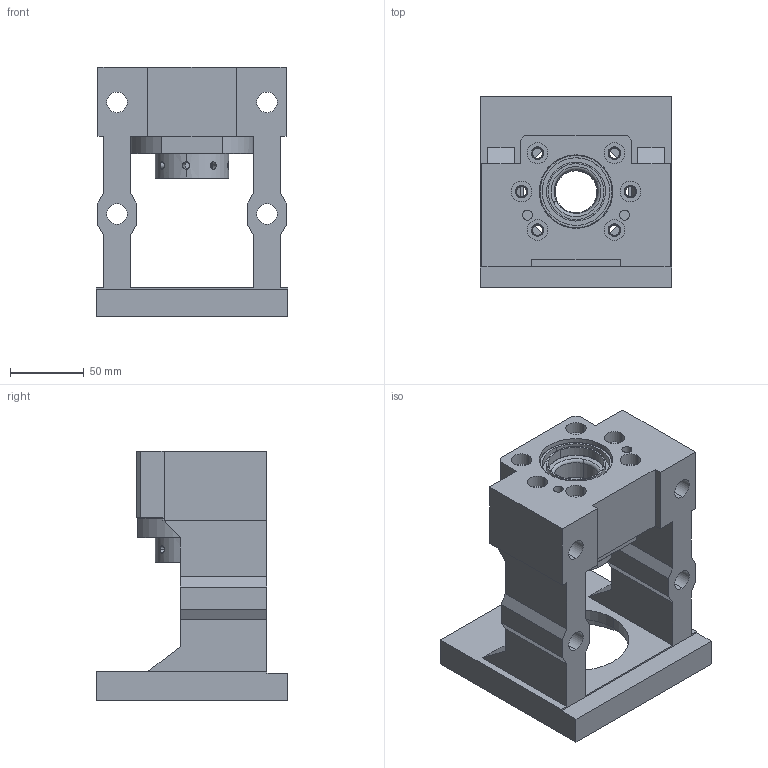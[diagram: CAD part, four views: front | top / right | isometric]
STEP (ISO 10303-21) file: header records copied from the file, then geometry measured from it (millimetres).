
FILE_DESCRIPTION (( 'STEP AP203' ), '1' );
FILE_NAME ('MBCS30-YP.STEP', '2021-10-28T08:33:29', ( '' ), ( '' ), 'SwSTEP 2.0', 'SolidWorks 2018', '' );
FILE_SCHEMA (( 'CONFIG_CONTROL_DESIGN' ));
Length unit declared in the file: millimetre
Products named in the file (1): MBCS30-YP
Bounding box: 130 x 130 x 170 mm (x, y, z)
Surface area: 144850 mm2 (no closed solid volume)
Topology: 0 solids, 7 shells, 220 faces, 600 edges, 391 vertices
Faces by surface type: cylinder 101, plane 75, cone 32, torus 12
Entity records: 7853 total; most frequent: CARTESIAN_POINT 2026, DIRECTION 1269, ORIENTED_EDGE 1095, EDGE_CURVE 596, AXIS2_PLACEMENT_3D 486, VERTEX_POINT 391, LINE 297, VECTOR 297
